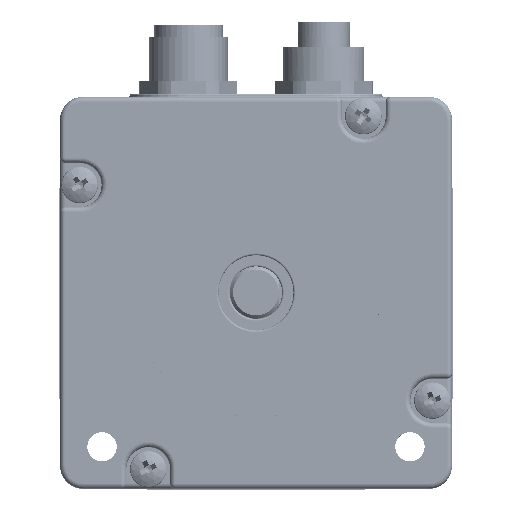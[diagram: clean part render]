
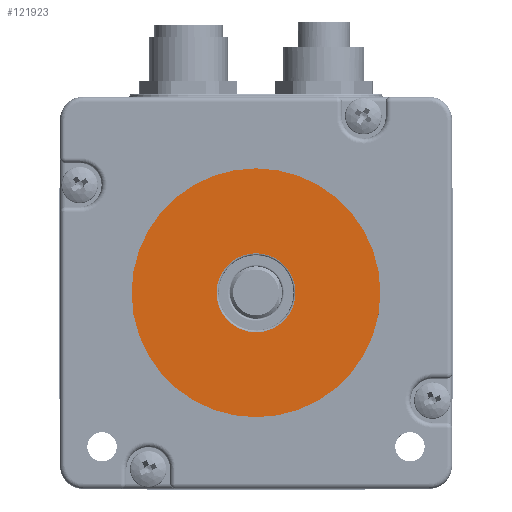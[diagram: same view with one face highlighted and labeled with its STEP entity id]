
A CAD part, top view. The second image highlights one B-rep face of the part: STEP entity #121923.
In plain terms, the highlighted planar face has unit normal (0, 0, 1).
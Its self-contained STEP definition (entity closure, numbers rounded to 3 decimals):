
#4933 = FACE_OUTER_BOUND ( 'NONE', #168971, .T. ) ;
#9242 = ORIENTED_EDGE ( 'NONE', *, *, #122802, .T. ) ;
#19075 = CARTESIAN_POINT ( 'NONE',  ( -98.952, 46.681, 35.1 ) ) ;
#20403 = EDGE_LOOP ( 'NONE', ( #38082, #106394 ) ) ;
#21729 = FACE_BOUND ( 'NONE', #20403, .T. ) ;
#34825 = CARTESIAN_POINT ( 'NONE',  ( -118.002, 46.681, 35.1 ) ) ;
#38082 = ORIENTED_EDGE ( 'NONE', *, *, #185656, .T. ) ;
#53016 = DIRECTION ( 'NONE',  ( 0., 0., 1. ) ) ;
#70388 = EDGE_CURVE ( 'NONE', #139255, #240238, #142988, .T. ) ;
#96315 = DIRECTION ( 'NONE',  ( 1., 0., 0. ) ) ;
#99643 = DIRECTION ( 'NONE',  ( 0., 0., -1. ) ) ;
#104099 = AXIS2_PLACEMENT_3D ( 'NONE', #165988, #110380, #187940 ) ;
#106394 = ORIENTED_EDGE ( 'NONE', *, *, #70388, .T. ) ;
#109119 = CIRCLE ( 'NONE', #240804, 19.05 ) ;
#110380 = DIRECTION ( 'NONE',  ( 0., 0., 1. ) ) ;
#119099 = CARTESIAN_POINT ( 'NONE',  ( -98.952, 46.681, 35.1 ) ) ;
#119651 = PLANE ( 'NONE',  #251899 ) ;
#120880 = DIRECTION ( 'NONE',  ( 1., 0., 0. ) ) ;
#121923 = ADVANCED_FACE ( 'NONE', ( #21729, #4933 ), #119651, .T. ) ;
#122168 = CARTESIAN_POINT ( 'NONE',  ( -98.952, 46.681, 35.1 ) ) ;
#122802 = EDGE_CURVE ( 'NONE', #136464, #178352, #190758, .T. ) ;
#136464 = VERTEX_POINT ( 'NONE', #166168 ) ;
#139255 = VERTEX_POINT ( 'NONE', #172261 ) ;
#142988 = CIRCLE ( 'NONE', #192368, 6.05 ) ;
#148029 = CARTESIAN_POINT ( 'NONE',  ( -92.902, 46.681, 35.1 ) ) ;
#154023 = DIRECTION ( 'NONE',  ( 1., 0., 0. ) ) ;
#157727 = AXIS2_PLACEMENT_3D ( 'NONE', #119099, #99643, #154023 ) ;
#165988 = CARTESIAN_POINT ( 'NONE',  ( -98.952, 46.681, 35.1 ) ) ;
#166168 = CARTESIAN_POINT ( 'NONE',  ( -79.902, 46.681, 35.1 ) ) ;
#168971 = EDGE_LOOP ( 'NONE', ( #201047, #9242 ) ) ;
#170550 = EDGE_CURVE ( 'NONE', #178352, #136464, #109119, .T. ) ;
#172261 = CARTESIAN_POINT ( 'NONE',  ( -105.002, 46.681, 35.1 ) ) ;
#172930 = DIRECTION ( 'NONE',  ( 1., 0., 0. ) ) ;
#178352 = VERTEX_POINT ( 'NONE', #34825 ) ;
#178963 = DIRECTION ( 'NONE',  ( 0., 0., -1. ) ) ;
#185656 = EDGE_CURVE ( 'NONE', #240238, #139255, #235882, .T. ) ;
#187940 = DIRECTION ( 'NONE',  ( 1., 0., 0. ) ) ;
#190758 = CIRCLE ( 'NONE', #104099, 19.05 ) ;
#192368 = AXIS2_PLACEMENT_3D ( 'NONE', #19075, #178963, #96315 ) ;
#201047 = ORIENTED_EDGE ( 'NONE', *, *, #170550, .T. ) ;
#218982 = DIRECTION ( 'NONE',  ( 0., 0., 1. ) ) ;
#229642 = CARTESIAN_POINT ( 'NONE',  ( -98.952, 46.681, 35.1 ) ) ;
#235882 = CIRCLE ( 'NONE', #157727, 6.05 ) ;
#240238 = VERTEX_POINT ( 'NONE', #148029 ) ;
#240804 = AXIS2_PLACEMENT_3D ( 'NONE', #229642, #53016, #172930 ) ;
#251899 = AXIS2_PLACEMENT_3D ( 'NONE', #122168, #218982, #120880 ) ;
